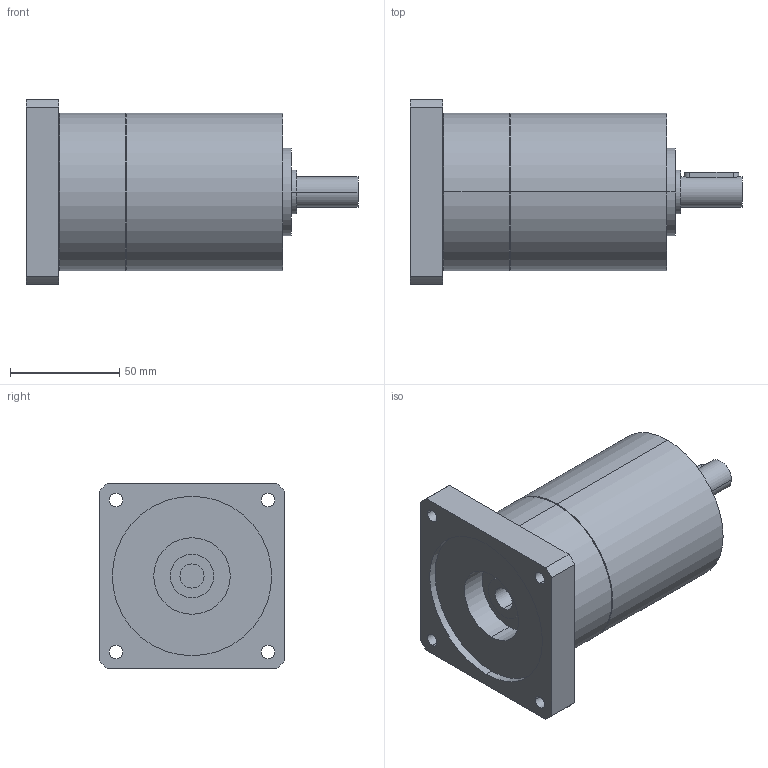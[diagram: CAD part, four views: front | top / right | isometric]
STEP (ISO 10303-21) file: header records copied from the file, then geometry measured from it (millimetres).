
FILE_DESCRIPTION(('CoCreate Modeling STEP Export'),'2;1');
FILE_NAME('GPT75_ig-9-12-16-20-25-28-35-40-50-70-100_14_B14T_11_P36.stp','2014-08-27T13:08:53',(''),(''),'CoCreate Modeling STEP processor for AP214 (Solid Model)','CoCreate Modeling 16.00C 25-Feb-2009 (C) Parametric Technology GmbH','');
FILE_SCHEMA(('AUTOMOTIVE_DESIGN { 1 0 10303 214 1 1 1 1 }'));
Length unit declared in the file: millimetre
Products named in the file (2): GPT75_ig-9-12-16-20-25-28-35-40-50-70-100_14_B14T_11_P36
Assembly tree (1 placements, depth 2):
  GPT75_ig-9-12-16-20-25-28-35-40-50-70-100_14_B14T_11_P36
    GPT75_ig-9-12-16-20-25-28-35-40-50-70-100_14_B14T_11_P36
Bounding box: 152 x 85 x 85 mm (x, y, z)
Volume: 505233.4 mm3; surface area: 50000.4 mm2
Topology: 1 solids, 1 shells, 69 faces, 166 edges, 113 vertices
Faces by surface type: cylinder 42, plane 23, cone 4
Entity records: 2161 total; most frequent: CARTESIAN_POINT 664, ORIENTED_EDGE 332, DIRECTION 262, EDGE_CURVE 166, VERTEX_POINT 113, AXIS2_PLACEMENT_3D 99, EDGE_LOOP 91, FACE_OUTER_BOUND 69
